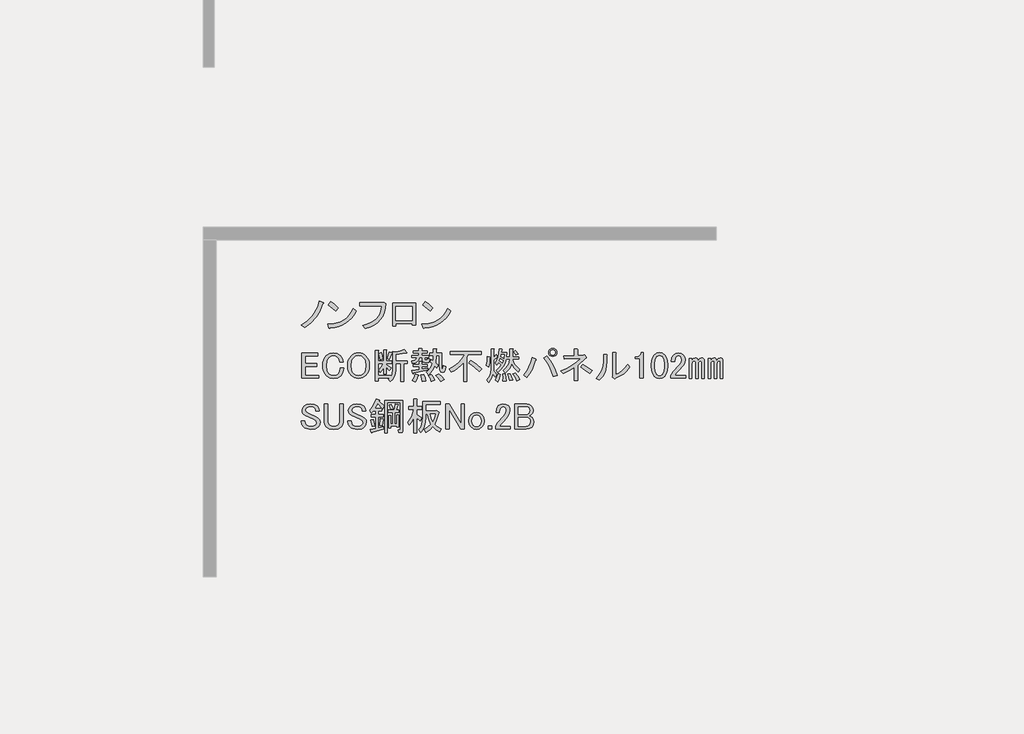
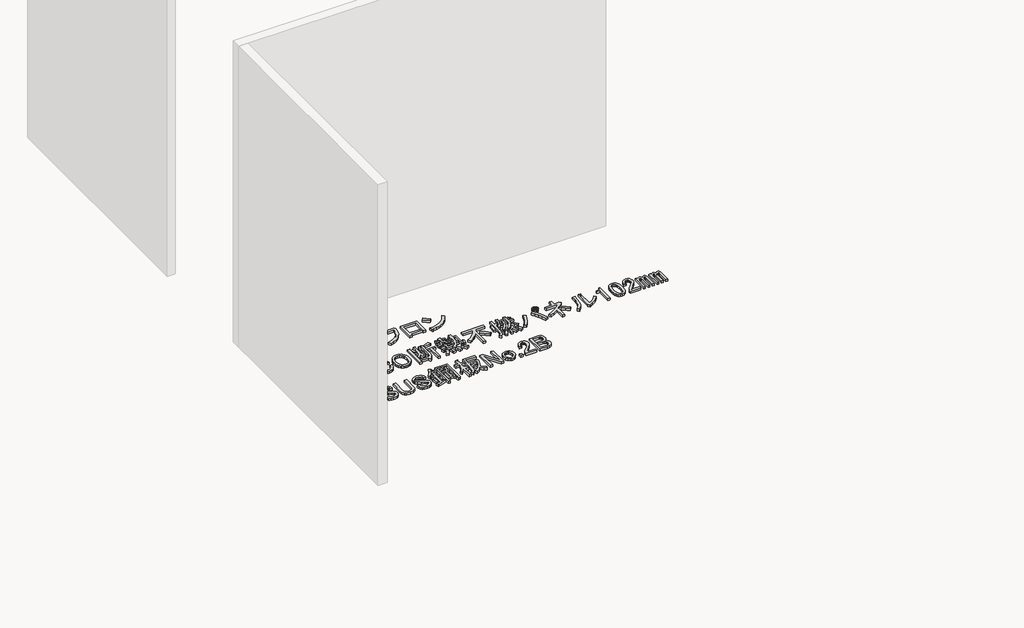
# One storey, part 58 of 117: 1 proxy.
"""IFC4 building model written with IfcOpenShell, lengths in millimetres."""

from ifc_helpers import new_model, si_unit, frame, origin, place, context, project, spatial, polyline, outline, extrude, element, save

model = new_model("IFC4")

# Units and contexts
model_context = context("Model", 3, world=origin())
ifc_project = project(units=[si_unit("LENGTHUNIT", "METRE", prefix="MILLI")], contexts=[model_context])

# Site, building, storey
site = spatial("IfcSite", under=ifc_project)
building = spatial("IfcBuilding", under=site)
storey = spatial("IfcBuildingStorey", under=building, Name="レベル 1", Elevation=500.0)

# Proxy
placement = place(None, origin())
element("IfcBuildingElementProxy", 1, Name="200㎜\u3000MS Pゴシック", ObjectType="200㎜\u3000MS Pゴシック", at=placement, inside=storey, context=model_context, shape_type="SweptSolid", body=[
    extrude(outline(polyline([(40940.1706985, -4603.5496882), (40914.5952502, -4663.3215225), (40886.146156, -4709.2998566), (40844.4782907, -4754.7034615), (40795.3389462, -4792.060858), (40767.7519457, -4770.2211493), (40815.4544673, -4739.7605029), (40855.1107805, -4701.2536481), (40872.4963381, -4677.3305462), (40887.8703435, -4649.2406577), (40901.2327969, -4616.9839827), (40912.5836981, -4580.5605212), (40943.6190736, -4594.3540214), (40946.7800841, -4598.9518548), (40940.1706985, -4603.5496882)])), frame((0.0, 0.0, 500.0), z_axis=(0.0, 0.0, 1.0), x_axis=(1.0, 0.0, 0.0)), (0.0, 0.0, 1.0), 25.0),
    extrude(outline(polyline([(41039.8977052, -4658.7236891), (40981.2753292, -4611.5958967), (41000.8161212, -4587.4572713), (41028.1157571, -4607.2854279), (41061.7374138, -4636.8839804), (41039.8977052, -4658.7236891)])), frame((0.0, 0.0, 500.0), z_axis=(0.0, 0.0, 1.0), x_axis=(1.0, 0.0, 0.0)), (0.0, 0.0, 1.0), 25.0),
    extrude(outline(polyline([(41201.9713328, -4658.7236891), (41185.447869, -4688.465924), (41166.3381239, -4714.4724192), (41144.6420975, -4736.7431748), (41120.3597898, -4755.2781907), (41093.4912008, -4770.077467), (41064.0363306, -4781.1410036), (41031.995179, -4788.4688006), (40997.3677461, -4792.060858), (40991.6204544, -4800.1070664), (40985.8731626, -4794.3597747), (40976.6774958, -4764.4738575), (41012.5082679, -4761.7977748), (41045.2857912, -4755.4937141), (41075.0100658, -4745.5616756), (41101.6810916, -4732.0016591), (41125.2988687, -4714.8136646), (41145.863397, -4693.9976923), (41163.3746766, -4669.553742), (41177.8327074, -4641.4818138), (41201.9713328, -4658.7236891)])), frame((0.0, 0.0, 500.0), z_axis=(0.0, 0.0, 1.0), x_axis=(1.0, 0.0, 0.0)), (0.0, 0.0, 1.0), 25.0),
    extrude(outline(polyline([(41252.7314136, -4773.6695243), (41286.514713, -4763.9889298), (41316.0234641, -4751.6142922), (41341.257667, -4736.5456116), (41362.2173217, -4718.782888), (41378.902428, -4698.3261214), (41391.3129862, -4675.1753118), (41399.4489961, -4649.3304591), (41403.3104577, -4620.7915635), (41230.8917049, -4620.7915635), (41230.8917049, -4595.5034798), (41405.6093744, -4595.5034798), (41421.7017914, -4592.0551047), (41434.3458332, -4603.5496882), (41430.825617, -4640.0449909), (41422.5638851, -4673.0919185), (41409.5606375, -4702.6904711), (41391.8158742, -4728.8406486), (41369.3295952, -4751.542451), (41342.1018005, -4770.7958784), (41310.1324901, -4786.6009308), (41273.421664, -4798.9576081), (41252.7314136, -4773.6695243)])), frame((0.0, 0.0, 500.0), z_axis=(0.0, 0.0, 1.0), x_axis=(1.0, 0.0, 0.0)), (0.0, 0.0, 1.0), 25.0),
    extrude(outline(polyline([(41667.455987, -4772.520066), (41641.0184449, -4772.520066), (41641.0184449, -4759.8760241), (41513.4285679, -4759.8760241), (41513.4285679, -4778.2673577), (41486.9910258, -4778.2673577), (41486.9910258, -4598.9518548), (41667.455987, -4598.9518548), (41667.455987, -4772.520066)]), holes=[polyline([(41513.4285679, -4624.2399386), (41513.4285679, -4734.5879404), (41641.0184449, -4734.5879404), (41641.0184449, -4624.2399386), (41513.4285679, -4624.2399386)])]), frame((0.0, 0.0, 500.0), z_axis=(0.0, 0.0, 1.0), x_axis=(1.0, 0.0, 0.0)), (0.0, 0.0, 1.0), 25.0),
    extrude(outline(polyline([(41943.5099049, -4658.7236891), (41926.9864411, -4688.465924), (41907.876696, -4714.4724192), (41886.1806696, -4736.7431748), (41861.8983619, -4755.2781907), (41835.0297729, -4770.077467), (41805.5749026, -4781.1410036), (41773.5337511, -4788.4688006), (41738.9063182, -4792.060858), (41733.1590264, -4800.1070664), (41727.4117347, -4794.3597747), (41718.2160679, -4764.4738575), (41754.0468399, -4761.7977748), (41786.8243633, -4755.4937141), (41816.5486378, -4745.5616756), (41843.2196637, -4732.0016591), (41866.8374407, -4714.8136646), (41887.4019691, -4693.9976923), (41904.9132486, -4669.553742), (41919.3712795, -4641.4818138), (41943.5099049, -4658.7236891)])), frame((0.0, 0.0, 500.0), z_axis=(0.0, 0.0, 1.0), x_axis=(1.0, 0.0, 0.0)), (0.0, 0.0, 1.0), 25.0),
    extrude(outline(polyline([(41781.4362772, -4658.7236891), (41722.8139013, -4611.5958967), (41742.3546933, -4587.4572713), (41769.6543291, -4607.2854279), (41803.2759859, -4636.8839804), (41781.4362772, -4658.7236891)])), frame((0.0, 0.0, 500.0), z_axis=(0.0, 0.0, 1.0), x_axis=(1.0, 0.0, 0.0)), (0.0, 0.0, 1.0), 25.0),
    extrude(outline(polyline([(40773.4992375, -4992.0551047), (40899.9396562, -4992.0551047), (40899.9396562, -5013.8948134), (40799.9367796, -5013.8948134), (40799.9367796, -5074.816106), (40893.0429061, -5074.816106), (40893.0429061, -5096.6558147), (40799.9367796, -5096.6558147), (40799.9367796, -5166.7727742), (40905.686948, -5166.7727742), (40905.686948, -5188.6124829), (40773.4992375, -5188.6124829), (40773.4992375, -4992.0551047)])), frame((0.0, 0.0, 500.0), z_axis=(0.0, 0.0, 1.0), x_axis=(1.0, 0.0, 0.0)), (0.0, 0.0, 1.0), 25.0),
    extrude(outline(polyline([(40937.7798252, -5090.908523), (40939.5758538, -5066.985421), (40944.9639399, -5045.7922827), (40953.9440832, -5027.3291079), (40966.516284, -5011.5958967), (40991.5170031, -4995.2161152), (41022.8397432, -4989.756188), (41053.5877541, -4994.641386), (41076.8642858, -5009.29698), (41092.6693381, -5032.8608762), (41098.7039944, -5062.1720642), (41071.116994, -5062.1720642), (41066.231796, -5040.9070847), (41056.1740354, -5025.3893969), (41040.9437123, -5015.0442717), (41022.8397432, -5011.5958967), (41003.2989512, -5015.6190009), (40986.0570759, -5027.6883136), (40977.0050914, -5039.3984206), (40970.5393882, -5053.8384911), (40965.3668256, -5090.908523), (40970.5393882, -5127.9785548), (40977.0050914, -5142.4186254), (40986.0570759, -5154.1287323), (41002.7242221, -5165.3359513), (41022.8397432, -5169.0716909), (41043.242629, -5165.9106804), (41058.4729521, -5156.427649), (41070.5422648, -5136.8868571), (41074.5653691, -5110.449315), (41102.1523695, -5110.449315), (41095.8303486, -5145.2204301), (41088.7899162, -5159.3731361), (41079.1632025, -5171.3706076), (41068.3151893, -5179.9197041), (41055.3119417, -5186.0262016), (41022.8397432, -5190.9113996), (40991.5170031, -5185.4514724), (40966.516284, -5169.0716909), (40953.9440832, -5153.4103209), (40944.9639399, -5135.1626695), (40939.5758538, -5114.3287369), (40937.7798252, -5090.908523)])), frame((0.0, 0.0, 500.0), z_axis=(0.0, 0.0, 1.0), x_axis=(1.0, 0.0, 0.0)), (0.0, 0.0, 1.0), 25.0),
    extrude(outline(polyline([(41133.1417667, -5089.7590646), (41134.8659542, -5066.9135799), (41140.0385168, -5046.6543764), (41148.6594544, -5028.9814543), (41160.7287671, -5013.8948134), (41173.4446501, -5003.3341648), (41187.4536738, -4995.7908443), (41202.7558381, -4991.2648521), (41219.3511431, -4989.756188), (41235.946448, -4991.2648521), (41251.2486123, -4995.7908443), (41265.257636, -5003.3341648), (41277.973519, -5013.8948134), (41290.0428317, -5028.9814543), (41298.6637694, -5046.6543764), (41303.836332, -5066.9135799), (41305.5605195, -5089.7590646), (41303.836332, -5112.6045494), (41298.6637694, -5132.8637528), (41290.0428317, -5150.536675), (41277.973519, -5165.6233159), (41265.257636, -5176.1839645), (41251.2486123, -5183.7272849), (41235.946448, -5188.2532772), (41219.3511431, -5189.7619413), (41202.7558381, -5188.2532772), (41187.4536738, -5183.7272849), (41173.4446501, -5176.1839645), (41160.7287671, -5165.6233159), (41148.6594544, -5150.536675), (41140.0385168, -5132.8637528), (41134.8659542, -5112.6045494), (41133.1417667, -5089.7590646)]), holes=[polyline([(41219.3511431, -5011.5958967), (41198.6608927, -5015.9063655), (41180.2695591, -5028.837772), (41171.7204626, -5039.9731498), (41165.6139651, -5053.8384911), (41160.7287671, -5089.7590646), (41165.6139651, -5125.6796381), (41171.7204626, -5139.5449795), (41180.2695591, -5150.6803573), (41198.6608927, -5163.6117637), (41219.3511431, -5167.9222326), (41240.0413934, -5163.6117637), (41258.432727, -5150.6803573), (41266.9818235, -5139.5449795), (41273.088321, -5125.6796381), (41277.973519, -5089.7590646), (41273.088321, -5053.8384911), (41266.9818235, -5039.9731498), (41258.432727, -5028.837772), (41240.0413934, -5015.9063655), (41219.3511431, -5011.5958967)])]), frame((0.0, 0.0, 500.0), z_axis=(0.0, 0.0, 1.0), x_axis=(1.0, 0.0, 0.0)), (0.0, 0.0, 1.0), 25.0),
    extrude(outline(polyline([(41444.3691101, -5035.7345221), (41461.6109854, -4982.8594379), (41482.3012357, -4988.6067296), (41484.0254232, -4991.7677401), (41480.002319, -4994.3540214), (41462.7604437, -5042.6312722), (41444.3691101, -5035.7345221)])), frame((0.0, 0.0, 500.0), z_axis=(0.0, 0.0, 1.0), x_axis=(1.0, 0.0, 0.0)), (0.0, 0.0, 1.0), 25.0),
    extrude(outline(polyline([(41598.3965292, -4987.4572713), (41596.6723417, -4992.0551047), (41589.2008624, -4989.756188), (41512.1871528, -5002.4002299), (41512.1871528, -5051.826939), (41604.143821, -5051.826939), (41604.143821, -5073.6666477), (41573.1084455, -5073.6666477), (41573.1084455, -5213.9005666), (41550.1192785, -5213.9005666), (41550.1192785, -5073.6666477), (41512.1871528, -5073.6666477), (41512.1871528, -5123.0933568), (41509.6008716, -5150.8958807), (41501.8420277, -5175.6810764), (41488.9106212, -5197.448944), (41470.8066522, -5216.1994833), (41453.5647769, -5196.6586914), (41463.9099021, -5187.4630245), (41374.2521506, -5187.4630245), (41374.2521506, -5209.3027332), (41351.2629836, -5209.3027332), (41351.2629836, -4970.215396), (41373.1026922, -4970.215396), (41377.9878902, -4972.5143127), (41374.2521506, -4977.1121461), (41374.2521506, -5052.9763974), (41416.7821096, -5052.9763974), (41416.7821096, -4965.6175626), (41435.1734433, -4965.6175626), (41440.0586413, -4967.9164793), (41436.3229016, -4972.5143127), (41436.3229016, -5052.9763974), (41480.002319, -5052.9763974), (41480.002319, -5071.367731), (41436.3229016, -5071.367731), (41436.3229016, -5080.5633978), (41476.5539439, -5107.0009399), (41462.7604437, -5128.8406486), (41436.3229016, -5102.4031065), (41436.3229016, -5155.2781907), (41416.7821096, -5155.2781907), (41416.7821096, -5107.0009399), (41403.5633386, -5126.8290965), (41389.1951092, -5142.6341488), (41376.5510673, -5124.2428152), (41398.390776, -5100.1041898), (41415.6326513, -5071.367731), (41374.2521506, -5071.367731), (41374.2521506, -5165.6233159), (41471.9561105, -5165.6233159), (41471.9561105, -5179.4168161), (41484.887517, -5155.2781907), (41489.1979858, -5121.9438985), (41489.1979858, -4977.1121461), (41511.0376945, -4982.8594379), (41547.2456326, -4975.3879586), (41577.7062789, -4962.1691875), (41598.3965292, -4987.4572713)])), frame((0.0, 0.0, 500.0), z_axis=(0.0, 0.0, 1.0), x_axis=(1.0, 0.0, 0.0)), (0.0, 0.0, 1.0), 25.0),
    extrude(outline(polyline([(41390.3445675, -5043.7807305), (41377.7005257, -4993.2045631), (41397.2413176, -4986.3078129), (41405.0001615, -5010.4464383), (41409.8853595, -5036.8839804), (41390.3445675, -5043.7807305)])), frame((0.0, 0.0, 500.0), z_axis=(0.0, 0.0, 1.0), x_axis=(1.0, 0.0, 0.0)), (0.0, 0.0, 1.0), 25.0),
    extrude(outline(polyline([(41734.0326148, -5159.8760241), (41744.0903754, -5187.17566), (41748.9755734, -5209.3027332), (41720.2391146, -5215.050025), (41717.6528333, -5193.4976809), (41709.8939894, -5163.3243992), (41734.0326148, -5159.8760241)])), frame((0.0, 0.0, 500.0), z_axis=(0.0, 0.0, 1.0), x_axis=(1.0, 0.0, 0.0)), (0.0, 0.0, 1.0), 25.0),
    extrude(outline(polyline([(41790.356074, -5212.7511083), (41782.022501, -5188.0377537), (41768.5163654, -5166.7727742), (41789.2066157, -5158.7265657), (41806.1611264, -5180.2789098), (41817.9430745, -5203.5554415), (41790.356074, -5212.7511083)])), frame((0.0, 0.0, 500.0), z_axis=(0.0, 0.0, 1.0), x_axis=(1.0, 0.0, 0.0)), (0.0, 0.0, 1.0), 25.0),
    extrude(outline(polyline([(41689.2037391, -5164.4738575), (41692.6521141, -5169.3590555), (41686.9048224, -5172.520066), (41677.1344264, -5198.0955143), (41666.214572, -5217.3489417), (41643.225405, -5205.8543582), (41655.8694469, -5182.290462), (41666.214572, -5155.2781907), (41689.2037391, -5164.4738575)])), frame((0.0, 0.0, 500.0), z_axis=(0.0, 0.0, 1.0), x_axis=(1.0, 0.0, 0.0)), (0.0, 0.0, 1.0), 25.0),
    extrude(outline(polyline([(41721.3885729, -5027.6883136), (41696.1004892, -5027.6883136), (41691.5026558, -5045.1457123), (41681.1575306, -5058.4363245), (41665.0651137, -5067.5601502), (41643.225405, -5072.5171893), (41638.6275716, -5052.9763974), (41663.9156553, -5044.3554597), (41671.3871346, -5037.0276627), (41675.4102388, -5027.6883136), (41639.7770299, -5027.6883136), (41639.7770299, -5009.29698), (41693.8015725, -5009.29698), (41693.8015725, -4992.0551047), (41650.1221551, -4992.0551047), (41650.1221551, -4973.6637711), (41693.8015725, -4973.6637711), (41693.8015725, -4955.2724374), (41715.6412812, -4955.2724374), (41720.5264792, -4957.5713541), (41716.7907395, -4962.1691875), (41716.7907395, -4973.6637711), (41759.3206985, -4973.6637711), (41759.3206985, -4992.0551047), (41716.7907395, -4992.0551047), (41716.7907395, -5009.29698), (41769.6658237, -5009.29698), (41769.6658237, -5027.6883136), (41740.9293649, -5027.6883136), (41740.9293649, -5040.3323555), (41742.3661878, -5045.5049181), (41746.6766567, -5047.2291056), (41757.0217818, -5047.2291056), (41760.7575215, -5044.0680951), (41760.4701569, -5034.5850637), (41780.0109489, -5036.8839804), (41777.137303, -5058.4363245), (41771.8210581, -5063.8244106), (41763.9185319, -5065.6204392), (41739.7799066, -5065.6204392), (41725.9864063, -5060.7352412), (41721.3885729, -5046.0796472), (41721.3885729, -5027.6883136)])), frame((0.0, 0.0, 500.0), z_axis=(0.0, 0.0, 1.0), x_axis=(1.0, 0.0, 0.0)), (0.0, 0.0, 1.0), 25.0),
    extrude(outline(polyline([(41852.4268251, -5010.4464383), (41830.5871164, -5010.4464383), (41825.989283, -5067.9193559), (41845.5300749, -5086.3106896), (41835.1849498, -5108.1503983), (41819.0925328, -5092.0579813), (41799.8391054, -5129.7027424), (41769.6658237, -5162.1749408), (41752.4239484, -5141.4846905), (41767.5105893, -5129.5590601), (41780.585678, -5114.4724192), (41791.6492147, -5096.2247679), (41800.7011992, -5074.816106), (41783.4593239, -5059.8731475), (41791.5055324, -5042.6312722), (41805.2990326, -5052.9763974), (41807.5979493, -5010.4464383), (41780.0109489, -5010.4464383), (41780.0109489, -4992.0551047), (41807.5979493, -4992.0551047), (41807.5979493, -4957.5713541), (41829.437658, -4957.5713541), (41834.322856, -4959.8702708), (41830.5871164, -4964.4681043), (41830.5871164, -4992.0551047), (41871.967617, -4992.0551047), (41871.967617, -5088.6096063), (41875.4159921, -5112.7482317), (41878.6488437, -5114.7597838), (41881.4506484, -5111.5987733), (41885.7611173, -5089.7590646), (41905.3019092, -5096.6558147), (41900.775917, -5123.4525626), (41892.945232, -5139.4731384), (41881.8098542, -5144.7175421), (41867.3697836, -5139.1857738), (41860.8322393, -5131.8579768), (41856.1625647, -5120.219711), (41852.4268251, -5084.0117729), (41852.4268251, -5010.4464383)])), frame((0.0, 0.0, 500.0), z_axis=(0.0, 0.0, 1.0), x_axis=(1.0, 0.0, 0.0)), (0.0, 0.0, 1.0), 25.0),
    extrude(outline(polyline([(41651.2716134, -5149.5308989), (41649.2600613, -5154.4160969), (41645.5243217, -5152.979274), (41639.7770299, -5128.8406486), (41694.9510308, -5120.7944401), (41694.9510308, -5097.8052731), (41651.2716134, -5097.8052731), (41651.2716134, -5079.4139395), (41694.9510308, -5079.4139395), (41694.9510308, -5056.4247724), (41713.3423645, -5056.4247724), (41718.2275625, -5058.7236891), (41714.4918228, -5063.3215225), (41714.4918228, -5079.4139395), (41759.3206985, -5079.4139395), (41759.3206985, -5097.8052731), (41714.4918228, -5097.8052731), (41714.4918228, -5117.3460651), (41765.0679903, -5108.1503983), (41765.0679903, -5124.2428152), (41651.2716134, -5149.5308989)])), frame((0.0, 0.0, 500.0), z_axis=(0.0, 0.0, 1.0), x_axis=(1.0, 0.0, 0.0)), (0.0, 0.0, 1.0), 25.0),
    extrude(outline(polyline([(41848.97845, -5154.1287323), (41873.6918046, -5175.3937119), (41892.6578674, -5200.1070664), (41866.2203253, -5215.050025), (41846.9668979, -5185.4514724), (41828.2881997, -5165.6233159), (41848.97845, -5154.1287323)])), frame((0.0, 0.0, 500.0), z_axis=(0.0, 0.0, 1.0), x_axis=(1.0, 0.0, 0.0)), (0.0, 0.0, 1.0), 25.0),
    extrude(outline(polyline([(42167.3784135, -5138.0363154), (42128.2968295, -5099.8168252), (42086.9163289, -5070.2182726), (42103.0087458, -5049.5280223), (42146.6881632, -5077.6897519), (42188.0686638, -5116.1966067), (42167.3784135, -5138.0363154)])), frame((0.0, 0.0, 500.0), z_axis=(0.0, 0.0, 1.0), x_axis=(1.0, 0.0, 0.0)), (0.0, 0.0, 1.0), 25.0),
    extrude(outline(polyline([(41940.9351182, -4977.1121461), (42182.3213721, -4977.1121461), (42182.3213721, -5002.4002299), (42082.3184955, -5002.4002299), (42071.9733703, -5026.5388553), (42071.9733703, -5212.7511083), (42045.5358282, -5212.7511083), (42045.5358282, -5065.6204392), (42024.7018956, -5088.8969709), (42001.2816816, -5109.2998566), (41975.2751864, -5126.8290965), (41946.6824099, -5141.4846905), (41930.589993, -5115.0471484), (41970.174465, -5094.6442626), (42003.8679629, -5069.0688143), (42031.6704868, -5038.3208034), (42053.5820367, -5002.4002299), (41940.9351182, -5002.4002299), (41940.9351182, -4977.1121461)])), frame((0.0, 0.0, 500.0), z_axis=(0.0, 0.0, 1.0), x_axis=(1.0, 0.0, 0.0)), (0.0, 0.0, 1.0), 25.0),
    extrude(outline(polyline([(42354.7401249, -5211.6016499), (42355.3148541, -5184.5893787), (42352.4412082, -5156.427649), (42371.9820002, -5155.2781907), (42378.3040211, -5181.4283682), (42378.8787503, -5209.3027332), (42354.7401249, -5211.6016499)])), frame((0.0, 0.0, 500.0), z_axis=(0.0, 0.0, 1.0), x_axis=(1.0, 0.0, 0.0)), (0.0, 0.0, 1.0), 25.0),
    extrude(outline(polyline([(42335.1993329, -5159.8760241), (42326.5783953, -5190.3366704), (42312.2101659, -5217.3489417), (42292.6693739, -5204.7048998), (42306.7502387, -5179.9915453), (42316.8079993, -5151.8298156), (42335.1993329, -5159.8760241)])), frame((0.0, 0.0, 500.0), z_axis=(0.0, 0.0, 1.0), x_axis=(1.0, 0.0, 0.0)), (0.0, 0.0, 1.0), 25.0),
    extrude(outline(polyline([(42250.1394149, -5021.9410219), (42254.7372483, -5024.2399386), (42250.1394149, -5028.837772), (42248.9899565, -5068.4940851), (42243.2426647, -5102.4031065), (42224.8513311, -5089.7590646), (42230.5986229, -5055.2753141), (42231.7480812, -5018.4926468), (42250.1394149, -5021.9410219)])), frame((0.0, 0.0, 500.0), z_axis=(0.0, 0.0, 1.0), x_axis=(1.0, 0.0, 0.0)), (0.0, 0.0, 1.0), 25.0),
    extrude(outline(polyline([(42301.8650407, -5003.5496882), (42311.0607075, -5020.7915635), (42312.4975305, -5026.8262199), (42307.6123325, -5026.5388553), (42281.1747904, -5047.2291056), (42281.1747904, -5131.1395653), (42294.9682906, -5143.4962426), (42306.4628741, -5159.8760241), (42293.8188322, -5180.5662744), (42275.4274986, -5155.2781907), (42263.6455505, -5191.1987642), (42242.0932064, -5220.7973168), (42227.1502478, -5202.4059831), (42242.2368887, -5183.6554438), (42253.0130607, -5163.0370346), (42259.478764, -5140.5507556), (42261.6339984, -5116.1966067), (42261.6339984, -4958.7208125), (42280.025332, -4958.7208125), (42284.91053, -4961.0197292), (42281.1747904, -4965.6175626), (42281.1747904, -5024.2399386), (42301.8650407, -5003.5496882)])), frame((0.0, 0.0, 500.0), z_axis=(0.0, 0.0, 1.0), x_axis=(1.0, 0.0, 0.0)), (0.0, 0.0, 1.0), 25.0),
    extrude(outline(polyline([(42452.4440848, -4972.5143127), (42474.2837935, -4996.6529381), (42457.0419182, -5008.1475216), (42450.4325327, -4996.6529381), (42437.5011262, -4982.8594379), (42452.4440848, -4972.5143127)])), frame((0.0, 0.0, 500.0), z_axis=(0.0, 0.0, 1.0), x_axis=(1.0, 0.0, 0.0)), (0.0, 0.0, 1.0), 25.0),
    extrude(outline(polyline([(42462.78921, -5209.3027332), (42449.5704389, -5181.1410036), (42432.9032928, -5156.427649), (42451.2946265, -5148.3814406), (42470.2606893, -5171.3706076), (42485.778377, -5198.9576081), (42462.78921, -5209.3027332)])), frame((0.0, 0.0, 500.0), z_axis=(0.0, 0.0, 1.0), x_axis=(1.0, 0.0, 0.0)), (0.0, 0.0, 1.0), 25.0),
    extrude(outline(polyline([(42413.3625008, -5154.1287323), (42431.7538345, -5203.5554415), (42407.6152091, -5208.1532749), (42393.8217089, -5157.5771074), (42413.3625008, -5154.1287323)])), frame((0.0, 0.0, 500.0), z_axis=(0.0, 0.0, 1.0), x_axis=(1.0, 0.0, 0.0)), (0.0, 0.0, 1.0), 25.0),
    extrude(outline(polyline([(42474.2837935, -5139.1857738), (42443.5357826, -5108.7251274), (42422.5581677, -5074.816106), (42414.1527535, -5096.9431793), (42402.7300111, -5116.1966067), (42388.2899405, -5132.5763882), (42370.8325418, -5146.0825239), (42357.0390416, -5127.6911902), (42377.8729742, -5108.7969686), (42393.2469797, -5087.7475125), (42403.161058, -5064.542822), (42407.6152091, -5039.1828971), (42378.8787503, -5039.1828971), (42370.904383, -5069.7872258), (42357.3264062, -5097.2305439), (42338.1448199, -5121.5128516), (42313.3596242, -5142.6341488), (42300.7155823, -5126.5417319), (42326.5783953, -5104.9893878), (42342.096083, -5084.0117729), (42320.2563743, -5064.4709809), (42306.4628741, -5085.1612312), (42292.6693739, -5070.2182726), (42305.0978923, -5051.1803687), (42314.7964472, -5026.2514907), (42321.7650384, -4995.4316386), (42326.0036661, -4958.7208125), (42346.6939164, -4961.0197292), (42350.1422915, -4963.6060105), (42344.3949997, -4966.767021), (42342.096083, -4985.1583546), (42385.7755004, -4985.1583546), (42382.3271253, -5020.7915635), (42407.6152091, -5020.7915635), (42407.6152091, -4958.7208125), (42429.4549178, -4958.7208125), (42434.3401158, -4961.0197292), (42430.6043761, -4965.6175626), (42430.6043761, -5020.7915635), (42480.0310853, -5020.7915635), (42480.0310853, -5039.1828971), (42430.6043761, -5039.1828971), (42437.1419205, -5060.9507647), (42448.7083452, -5081.4254916), (42465.3036501, -5100.6070778), (42486.9278354, -5118.4955234), (42474.2837935, -5139.1857738)]), holes=[polyline([(42350.1422915, -5069.0688143), (42357.0390416, -5049.5280223), (42331.7509579, -5033.4356054), (42326.0036661, -5050.6774807), (42350.1422915, -5069.0688143)]), polyline([(42339.7971663, -5003.5496882), (42336.3487913, -5019.6421052), (42361.636875, -5033.4356054), (42366.2347084, -5003.5496882), (42339.7971663, -5003.5496882)])]), frame((0.0, 0.0, 500.0), z_axis=(0.0, 0.0, 1.0), x_axis=(1.0, 0.0, 0.0)), (0.0, 0.0, 1.0), 25.0),
    extrude(outline(polyline([(42699.5776305, -5012.745355), (42726.230696, -5049.4561812), (42748.7169751, -5087.1727833), (42767.0364675, -5125.8951616), (42781.1891735, -5165.6233159), (42750.153798, -5175.968441), (42734.7079514, -5132.8637528), (42717.1068704, -5094.356898), (42697.3505549, -5060.4478766), (42675.4390051, -5031.1366887), (42699.5776305, -5012.745355)])), frame((0.0, 0.0, 500.0), z_axis=(0.0, 0.0, 1.0), x_axis=(1.0, 0.0, 0.0)), (0.0, 0.0, 1.0), 25.0),
    extrude(outline(polyline([(42612.2187958, -5039.1828971), (42616.2419, -5044.6428243), (42609.919879, -5049.5280223), (42597.9942486, -5084.9457078), (42582.9076078, -5118.782888), (42564.6599564, -5151.039563), (42543.2512946, -5181.7157328), (42516.8137525, -5164.4738575), (42540.018443, -5133.0074351), (42559.056347, -5099.5294606), (42573.9274644, -5064.039934), (42584.6317953, -5026.5388553), (42612.2187958, -5039.1828971)])), frame((0.0, 0.0, 500.0), z_axis=(0.0, 0.0, 1.0), x_axis=(1.0, 0.0, 0.0)), (0.0, 0.0, 1.0), 25.0),
    extrude(outline(polyline([(42745.5559646, -5018.4926468), (42732.9119227, -5016.1937301), (42722.5667975, -5009.29698), (42715.6700474, -4998.9518548), (42713.3711307, -4986.3078129), (42715.6700474, -4973.6637711), (42722.5667975, -4963.3186459), (42732.9119227, -4956.4218958), (42745.5559646, -4954.1229791), (42758.2000065, -4956.4218958), (42768.5451316, -4963.3186459), (42775.4418817, -4973.6637711), (42777.7407984, -4986.3078129), (42775.4418817, -4998.9518548), (42768.5451316, -5009.29698), (42758.2000065, -5016.1937301), (42745.5559646, -5018.4926468)]), holes=[polyline([(42745.5559646, -5006.9980633), (42753.8895376, -5005.5612403), (42760.4989232, -5001.2507715), (42764.809392, -4994.641386), (42766.2462149, -4986.3078129), (42764.809392, -4977.9742399), (42760.4989232, -4971.3648544), (42753.8895376, -4967.0543855), (42745.5559646, -4965.6175626), (42737.2223915, -4967.0543855), (42730.613006, -4971.3648544), (42726.3025372, -4977.9742399), (42724.8657143, -4986.3078129), (42726.3025372, -4994.641386), (42730.613006, -5001.2507715), (42737.2223915, -5005.5612403), (42745.5559646, -5006.9980633)])]), frame((0.0, 0.0, 500.0), z_axis=(0.0, 0.0, 1.0), x_axis=(1.0, 0.0, 0.0)), (0.0, 0.0, 1.0), 25.0),
    extrude(outline(polyline([(42989.2411352, -5008.1475216), (42996.1378853, -5005.8486049), (43008.7819272, -5023.0904802), (43009.9313856, -5029.1251366), (43004.1840938, -5031.1366887), (42940.9638844, -5087.4601479), (42940.9638844, -5208.1532749), (42914.5263423, -5208.1532749), (42914.5263423, -5105.8514816), (42874.2953, -5129.9901069), (42829.4664243, -5151.8298156), (42809.9256323, -5131.1395653), (42855.4729195, -5111.6706145), (42896.7097379, -5088.8969709), (42933.6360874, -5062.8186345), (42966.2519682, -5033.4356054), (42836.3631744, -5039.1828971), (42832.9147993, -5013.8948134), (42914.5263423, -5011.5958967), (42914.5263423, -4959.8702708), (42937.5155094, -4959.8702708), (42943.5501657, -4963.3186459), (42940.9638844, -4969.0659377), (42940.9638844, -5010.4464383), (42989.2411352, -5008.1475216)])), frame((0.0, 0.0, 500.0), z_axis=(0.0, 0.0, 1.0), x_axis=(1.0, 0.0, 0.0)), (0.0, 0.0, 1.0), 25.0),
    extrude(outline(polyline([(43035.2194693, -5151.8298156), (42998.1494375, -5122.5186277), (42965.1025098, -5101.2536481), (42982.3443851, -5079.4139395), (43021.1386045, -5102.6904711), (43054.7602613, -5128.8406486), (43035.2194693, -5151.8298156)])), frame((0.0, 0.0, 500.0), z_axis=(0.0, 0.0, 1.0), x_axis=(1.0, 0.0, 0.0)), (0.0, 0.0, 1.0), 25.0),
    extrude(outline(polyline([(43242.2139293, -5158.7265657), (43266.9991251, -5146.5135708), (43290.7785447, -5129.4153778), (43313.5521883, -5107.4319868), (43335.3200559, -5080.5633978), (43351.4124728, -5102.4031065), (43328.1359412, -5130.2056304), (43301.9857636, -5153.8413678), (43272.9619403, -5173.3103186), (43241.064471, -5188.6124829), (43231.8688042, -5193.2103163), (43213.4774705, -5179.4168161), (43215.7763872, -5173.6695243), (43215.7763872, -4988.6067296), (43239.9150126, -4988.6067296), (43245.6623044, -4992.0551047), (43242.2139293, -4997.8023965), (43242.2139293, -5158.7265657)])), frame((0.0, 0.0, 500.0), z_axis=(0.0, 0.0, 1.0), x_axis=(1.0, 0.0, 0.0)), (0.0, 0.0, 1.0), 25.0),
    extrude(outline(polyline([(43088.1865102, -5189.7619413), (43113.3309116, -5160.5225944), (43131.2911984, -5127.9785548), (43142.0673704, -5092.1298225), (43145.6594278, -5052.9763974), (43145.6594278, -5001.2507715), (43169.7980532, -5001.2507715), (43175.5453449, -5004.6991466), (43172.0969699, -5010.4464383), (43172.0969699, -5051.826939), (43168.2893891, -5097.5897496), (43156.8666467, -5138.32368), (43137.8287427, -5174.0287301), (43111.1756772, -5204.7048998), (43088.1865102, -5189.7619413)])), frame((0.0, 0.0, 500.0), z_axis=(0.0, 0.0, 1.0), x_axis=(1.0, 0.0, 0.0)), (0.0, 0.0, 1.0), 25.0),
    extrude(outline(polyline([(43430.7250991, -5011.5958967), (43438.7713075, -5000.6760423), (43442.2196826, -4988.6067296), (43456.0131828, -4988.6067296), (43456.0131828, -5187.4630245), (43429.5756407, -5187.4630245), (43429.5756407, -5034.5850637), (43395.0918902, -5034.5850637), (43395.0918902, -5020.7915635), (43405.4370153, -5020.7915635), (43419.8052447, -5018.4926468), (43430.7250991, -5011.5958967)])), frame((0.0, 0.0, 500.0), z_axis=(0.0, 0.0, 1.0), x_axis=(1.0, 0.0, 0.0)), (0.0, 0.0, 1.0), 25.0),
    extrude(outline(polyline([(43521.5323089, -5078.2644811), (43522.9691318, -5054.7005849), (43527.2796006, -5034.5850637), (43534.4637153, -5017.9179176), (43544.5214759, -5004.6991466), (43562.625445, -4992.6298339), (43584.7525182, -4988.6067296), (43606.8795915, -4992.6298339), (43624.9835606, -5004.6991466), (43635.0413212, -5017.9179176), (43642.2254359, -5034.5850637), (43646.5359047, -5054.7005849), (43647.9727276, -5078.2644811), (43647.9727276, -5101.2536481), (43646.5359047, -5124.3146563), (43642.2254359, -5144.0709718), (43635.0413212, -5160.5225944), (43624.9835606, -5173.6695243), (43606.8795915, -5185.738837), (43584.7525182, -5189.7619413), (43562.625445, -5185.738837), (43544.5214759, -5173.6695243), (43534.4637153, -5160.5225944), (43527.2796006, -5144.0709718), (43522.9691318, -5124.3146563), (43521.5323089, -5101.2536481), (43521.5323089, -5078.2644811)]), holes=[polyline([(43584.7525182, -5010.4464383), (43573.8326639, -5012.745355), (43564.0622679, -5019.6421052), (43557.5247235, -5028.7659308), (43552.855049, -5041.1944493), (43549.1193093, -5075.9655644), (43549.1193093, -5102.4031065), (43553.1424136, -5136.5994925), (43558.1712939, -5149.1716932), (43565.2117263, -5158.7265657), (43574.6947577, -5165.6233159), (43584.7525182, -5167.9222326), (43595.6723726, -5165.6233159), (43605.4427686, -5158.7265657), (43611.980313, -5149.6027401), (43616.6499875, -5137.1742216), (43620.3857272, -5102.4031065), (43620.3857272, -5075.9655644), (43616.6499875, -5041.1944493), (43611.980313, -5028.7659308), (43605.4427686, -5019.6421052), (43595.6723726, -5012.745355), (43584.7525182, -5010.4464383)])]), frame((0.0, 0.0, 500.0), z_axis=(0.0, 0.0, 1.0), x_axis=(1.0, 0.0, 0.0)), (0.0, 0.0, 1.0), 25.0),
    extrude(outline(polyline([(43677.8586448, -5058.7236891), (43682.4564782, -5027.400949), (43696.2499784, -5004.6991466), (43712.6297599, -4993.4919276), (43731.8831873, -4989.756188), (43754.5849898, -4993.4919276), (43772.1142296, -5004.6991466), (43783.3214486, -5021.3662927), (43787.0571882, -5041.4818138), (43782.7467194, -5067.3446268), (43769.8153129, -5089.7590646), (43736.4810207, -5127.6911902), (43718.0896871, -5148.3814406), (43704.2961869, -5166.7727742), (43790.5055633, -5166.7727742), (43790.5055633, -5188.6124829), (43673.2608114, -5188.6124829), (43673.2608114, -5169.0716909), (43679.2954677, -5155.2781907), (43692.8016033, -5136.8868571), (43739.9293958, -5085.1612312), (43754.5849898, -5063.8962517), (43759.4701878, -5041.4818138), (43757.1712711, -5028.837772), (43750.2745209, -5018.4926468), (43742.5156771, -5013.3200842), (43733.0326457, -5011.5958967), (43724.411708, -5013.3200842), (43716.9402287, -5018.4926468), (43707.4571973, -5034.8724283), (43704.2961869, -5058.7236891), (43677.8586448, -5058.7236891)])), frame((0.0, 0.0, 500.0), z_axis=(0.0, 0.0, 1.0), x_axis=(1.0, 0.0, 0.0)), (0.0, 0.0, 1.0), 25.0),
    extrude(outline(polyline([(43839.9322724, -5189.7619413), (43820.3914804, -5189.7619413), (43820.3914804, -5032.286147), (43839.9322724, -5032.286147), (43839.9322724, -5049.5280223), (43852.0015851, -5034.0103346), (43865.2203561, -5028.837772), (43874.416023, -5030.2745949), (43881.3127731, -5034.5850637), (43888.2095232, -5048.378564), (43901.1409296, -5033.72297), (43914.6470653, -5028.837772), (43922.9806383, -5030.2745949), (43929.5900239, -5034.5850637), (43934.7625864, -5043.2060014), (43936.486774, -5055.2753141), (43936.486774, -5189.7619413), (43916.945982, -5189.7619413), (43916.945982, -5065.6204392), (43914.3597007, -5056.1374078), (43906.6008568, -5052.9763974), (43896.2557317, -5057.5742308), (43890.2210753, -5066.1951684), (43888.2095232, -5075.9655644), (43888.2095232, -5189.7619413), (43868.6687312, -5189.7619413), (43868.6687312, -5065.6204392), (43866.0824499, -5056.1374078), (43858.323606, -5052.9763974), (43847.9784809, -5057.5742308), (43841.9438245, -5066.1951684), (43839.9322724, -5075.9655644), (43839.9322724, -5189.7619413)])), frame((0.0, 0.0, 500.0), z_axis=(0.0, 0.0, 1.0), x_axis=(1.0, 0.0, 0.0)), (0.0, 0.0, 1.0), 25.0),
    extrude(outline(polyline([(44061.7777343, -5028.837772), (44070.1113074, -5030.2745949), (44076.7206929, -5034.5850637), (44081.8932555, -5043.2060014), (44083.617443, -5055.2753141), (44083.617443, -5189.7619413), (44064.0766511, -5189.7619413), (44064.0766511, -5065.6204392), (44061.4903698, -5056.1374078), (44053.7315259, -5052.9763974), (44043.3864007, -5057.5742308), (44037.3517444, -5066.1951684), (44035.3401922, -5075.9655644), (44035.3401922, -5189.7619413), (44015.7994003, -5189.7619413), (44015.7994003, -5065.6204392), (44013.213119, -5056.1374078), (44005.4542751, -5052.9763974), (43995.1091499, -5057.5742308), (43989.0744936, -5066.1951684), (43987.0629415, -5075.9655644), (43987.0629415, -5189.7619413), (43967.5221495, -5189.7619413), (43967.5221495, -5032.286147), (43987.0629415, -5032.286147), (43987.0629415, -5049.5280223), (43999.1322542, -5034.0103346), (44012.3510252, -5028.837772), (44021.546692, -5030.2745949), (44028.4434421, -5034.5850637), (44035.3401922, -5048.378564), (44048.2715987, -5033.72297), (44061.7777343, -5028.837772)])), frame((0.0, 0.0, 500.0), z_axis=(0.0, 0.0, 1.0), x_axis=(1.0, 0.0, 0.0)), (0.0, 0.0, 1.0), 25.0),
    extrude(outline(polyline([(40775.7981542, -5443.7807305), (40779.8212584, -5423.3778448), (40791.8905711, -5405.8486049), (40812.2934569, -5393.7792922), (40841.3172803, -5389.756188), (40872.6400204, -5394.3540214), (40895.3418228, -5408.1475216), (40907.4111355, -5425.6767615), (40911.4342397, -5446.0796472), (40884.9966976, -5446.0796472), (40882.6977809, -5433.4356054), (40875.8010308, -5423.0904802), (40862.5822598, -5415.3316363), (40843.616197, -5412.745355), (40823.2133112, -5415.0442717), (40810.2819048, -5421.9410219), (40804.2472484, -5430.5619595), (40802.2356963, -5440.3323555), (40806.8335297, -5455.2753141), (40827.52378, -5466.7698976), (40887.2956143, -5493.2074397), (40904.5374896, -5504.7020232), (40914.020521, -5518.4955234), (40917.1815315, -5534.5879404), (40913.1584273, -5555.8529199), (40901.0891146, -5573.6695243), (40891.1031951, -5581.2128448), (40878.3873121, -5586.6009308), (40844.7656553, -5590.9113996), (40811.1439985, -5585.738837), (40797.5660217, -5579.2731338), (40786.1432794, -5570.2211493), (40774.9360604, -5551.8298156), (40771.2003208, -5526.5417319), (40797.6378629, -5526.5417319), (40799.9367796, -5544.3583363), (40806.8335297, -5556.427649), (40822.9259466, -5565.9106804), (40845.9151137, -5569.0716909), (40866.8927286, -5566.198045), (40881.5483226, -5557.5771074), (40888.4450727, -5548.3814406), (40890.7439894, -5539.1857738), (40889.0198019, -5529.7027424), (40883.8472393, -5521.9438985), (40865.4559057, -5510.449315), (40835.5699885, -5496.6558147), (40802.2356963, -5481.7128562), (40786.1432794, -5471.367731), (40778.3844355, -5459.2984183), (40775.7981542, -5443.7807305)])), frame((0.0, 0.0, 500.0), z_axis=(0.0, 0.0, 1.0), x_axis=(1.0, 0.0, 0.0)), (0.0, 0.0, 1.0), 25.0),
    extrude(outline(polyline([(40951.2054987, -5392.0551047), (40977.6430408, -5392.0551047), (40977.6430408, -5529.9901069), (40980.2293221, -5544.6457009), (40987.988166, -5556.427649), (41003.5058537, -5565.9106804), (41024.7708332, -5569.0716909), (41046.0358128, -5565.9106804), (41061.5535005, -5556.427649), (41069.3123444, -5544.6457009), (41071.8986257, -5529.9901069), (41071.8986257, -5392.0551047), (41098.3361678, -5392.0551047), (41098.3361678, -5531.1395653), (41094.3130635, -5554.1287323), (41082.2437508, -5572.520066), (41071.7549434, -5580.5662744), (41058.6798546, -5586.3135662), (41024.7708332, -5590.9113996), (40990.8618119, -5586.3135662), (40977.7867231, -5580.5662744), (40967.2979156, -5572.520066), (40955.2286029, -5554.1287323), (40951.2054987, -5531.1395653), (40951.2054987, -5392.0551047)])), frame((0.0, 0.0, 500.0), z_axis=(0.0, 0.0, 1.0), x_axis=(1.0, 0.0, 0.0)), (0.0, 0.0, 1.0), 25.0),
    extrude(outline(polyline([(41140.6822135, -5443.7807305), (41144.7053177, -5423.3778448), (41156.7746304, -5405.8486049), (41177.1775161, -5393.7792922), (41206.2013395, -5389.756188), (41237.5240796, -5394.3540214), (41260.2258821, -5408.1475216), (41272.2951948, -5425.6767615), (41276.318299, -5446.0796472), (41249.8807569, -5446.0796472), (41247.5818402, -5433.4356054), (41240.6850901, -5423.0904802), (41227.466319, -5415.3316363), (41208.5002562, -5412.745355), (41188.0973705, -5415.0442717), (41175.165964, -5421.9410219), (41169.1313077, -5430.5619595), (41167.1197556, -5440.3323555), (41171.717589, -5455.2753141), (41192.4078393, -5466.7698976), (41252.1796736, -5493.2074397), (41269.4215489, -5504.7020232), (41278.9045803, -5518.4955234), (41282.0655908, -5534.5879404), (41278.0424865, -5555.8529199), (41265.9731738, -5573.6695243), (41255.9872544, -5581.2128448), (41243.2713714, -5586.6009308), (41209.6497146, -5590.9113996), (41176.0280578, -5585.738837), (41162.450081, -5579.2731338), (41151.0273386, -5570.2211493), (41139.8201197, -5551.8298156), (41136.0843801, -5526.5417319), (41162.5219222, -5526.5417319), (41164.8208389, -5544.3583363), (41171.717589, -5556.427649), (41187.8100059, -5565.9106804), (41210.7991729, -5569.0716909), (41231.7767879, -5566.198045), (41246.4323819, -5557.5771074), (41253.329132, -5548.3814406), (41255.6280487, -5539.1857738), (41253.9038611, -5529.7027424), (41248.7312986, -5521.9438985), (41230.3399649, -5510.449315), (41200.4540478, -5496.6558147), (41167.1197556, -5481.7128562), (41151.0273386, -5471.367731), (41143.2684948, -5459.2984183), (41140.6822135, -5443.7807305)])), frame((0.0, 0.0, 500.0), z_axis=(0.0, 0.0, 1.0), x_axis=(1.0, 0.0, 0.0)), (0.0, 0.0, 1.0), 25.0),
    extrude(outline(polyline([(41410.3451429, -5431.1366887), (41368.9646422, -5387.4572713), (41347.1249335, -5426.5388553), (41402.2989344, -5426.5388553), (41402.2989344, -5444.9301889), (41375.8613923, -5444.9301889), (41375.8613923, -5473.6666477), (41413.7935179, -5473.6666477), (41413.7935179, -5492.0579813), (41375.8613923, -5492.0579813), (41375.8613923, -5579.4168161), (41414.9429763, -5569.0716909), (41417.241893, -5588.6124829), (41325.2852248, -5613.9005666), (41322.9863081, -5619.6478584), (41318.3884747, -5616.1994833), (41311.4917246, -5593.2103163), (41356.3206003, -5584.0146495), (41356.3206003, -5492.0579813), (41318.3884747, -5492.0579813), (41318.3884747, -5473.6666477), (41356.3206003, -5473.6666477), (41356.3206003, -5444.9301889), (41334.4808916, -5444.9301889), (41319.537933, -5463.3215225), (41306.8938912, -5442.6312722), (41335.0556208, -5404.9865112), (41359.7689754, -5354.1229791), (41381.6086841, -5359.8702708), (41385.0570591, -5363.6060105), (41379.3097674, -5365.6175626), (41378.160309, -5369.0659377), (41422.9891847, -5406.9980633), (41410.3451429, -5431.1366887)])), frame((0.0, 0.0, 500.0), z_axis=(0.0, 0.0, 1.0), x_axis=(1.0, 0.0, 0.0)), (0.0, 0.0, 1.0), 25.0),
    extrude(outline(polyline([(41478.1631856, -5394.3540214), (41485.3473003, -5409.5843446), (41490.8072275, -5429.9872303), (41473.5653522, -5435.7345221), (41462.0707687, -5398.9518548), (41478.1631856, -5394.3540214)])), frame((0.0, 0.0, 500.0), z_axis=(0.0, 0.0, 1.0), x_axis=(1.0, 0.0, 0.0)), (0.0, 0.0, 1.0), 25.0),
    extrude(outline(polyline([(41531.0382698, -5395.5034798), (41533.6245511, -5398.9518548), (41527.5898948, -5402.4002299), (41514.9458529, -5440.3323555), (41535.6361032, -5440.3323555), (41535.6361032, -5458.7236891), (41504.6007277, -5458.7236891), (41504.6007277, -5547.2319822), (41519.5436863, -5547.2319822), (41519.5436863, -5479.4139395), (41535.6361032, -5479.4139395), (41535.6361032, -5573.6695243), (41519.5436863, -5573.6695243), (41519.5436863, -5565.6233159), (41473.5653522, -5565.6233159), (41473.5653522, -5578.2673577), (41457.4729353, -5578.2673577), (41457.4729353, -5481.7128562), (41473.5653522, -5481.7128562), (41473.5653522, -5547.2319822), (41488.5083108, -5547.2319822), (41488.5083108, -5458.7236891), (41452.8751019, -5458.7236891), (41452.8751019, -5440.3323555), (41498.853436, -5440.3323555), (41509.1985611, -5390.9056463), (41531.0382698, -5395.5034798)])), frame((0.0, 0.0, 500.0), z_axis=(0.0, 0.0, 1.0), x_axis=(1.0, 0.0, 0.0)), (0.0, 0.0, 1.0), 25.0),
    extrude(outline(polyline([(41425.2881014, -5362.1691875), (41565.5220204, -5362.1691875), (41565.5220204, -5602.4059831), (41561.7862807, -5613.6132021), (41550.5790618, -5617.3489417), (41534.4866449, -5617.3489417), (41529.8888115, -5595.509233), (41541.383395, -5595.509233), (41544.83177, -5594.3597747), (41545.9812284, -5590.9113996), (41545.9812284, -5380.5605212), (41444.8288934, -5380.5605212), (41444.8288934, -5619.6478584), (41425.2881014, -5619.6478584), (41425.2881014, -5362.1691875)])), frame((0.0, 0.0, 500.0), z_axis=(0.0, 0.0, 1.0), x_axis=(1.0, 0.0, 0.0)), (0.0, 0.0, 1.0), 25.0),
    extrude(outline(polyline([(41413.7935179, -5510.449315), (41416.3797992, -5513.6103254), (41412.6440596, -5516.1966067), (41404.5978511, -5563.3243992), (41386.2065175, -5561.0254825), (41391.9538092, -5507.0009399), (41413.7935179, -5510.449315)])), frame((0.0, 0.0, 500.0), z_axis=(0.0, 0.0, 1.0), x_axis=(1.0, 0.0, 0.0)), (0.0, 0.0, 1.0), 25.0),
    extrude(outline(polyline([(41336.7798083, -5511.5987733), (41348.2743918, -5563.3243992), (41327.5841415, -5569.0716909), (41316.089558, -5517.3460651), (41336.7798083, -5511.5987733)])), frame((0.0, 0.0, 500.0), z_axis=(0.0, 0.0, 1.0), x_axis=(1.0, 0.0, 0.0)), (0.0, 0.0, 1.0), 25.0),
    extrude(outline(polyline([(41736.7913148, -5590.9113996), (41765.5277736, -5573.6695243), (41787.3674823, -5551.8298156), (41769.5508779, -5509.8745858), (41759.7804819, -5469.0688143), (41747.13644, -5469.0688143), (41747.13644, -5493.2074397), (41744.693841, -5534.9471461), (41737.366044, -5569.3590555), (41725.153049, -5596.4431679), (41708.054856, -5616.1994833), (41694.2613558, -5593.2103163), (41707.3364446, -5575.8247587), (41716.6757937, -5553.5540032), (41722.2794031, -5526.3980496), (41724.147273, -5494.356898), (41724.147273, -5373.6637711), (41860.9328169, -5373.6637711), (41860.9328169, -5395.5034798), (41747.13644, -5395.5034798), (41747.13644, -5447.2291056), (41826.4490663, -5447.2291056), (41832.1963581, -5441.4818138), (41851.73715, -5455.2753141), (41853.173973, -5459.0110537), (41848.288775, -5463.3215225), (41835.9320977, -5509.8745858), (41817.2533995, -5550.6803573), (41836.2194623, -5569.0716909), (41867.829567, -5587.4630245), (41858.6339002, -5611.6016499), (41830.7595351, -5595.509233), (41802.3104409, -5570.2211493), (41777.8844509, -5594.6471392), (41745.9869817, -5615.050025), (41736.7913148, -5590.9113996)]), holes=[polyline([(41781.6201906, -5469.0688143), (41789.666399, -5502.1157419), (41802.3104409, -5529.9901069), (41814.9544828, -5503.8399294), (41823.0006912, -5469.0688143), (41781.6201906, -5469.0688143)])]), frame((0.0, 0.0, 500.0), z_axis=(0.0, 0.0, 1.0), x_axis=(1.0, 0.0, 0.0)), (0.0, 0.0, 1.0), 25.0),
    extrude(outline(polyline([(41654.0303135, -5619.6478584), (41654.0303135, -5500.1041898), (41636.213709, -5534.3005758), (41617.2476462, -5556.427649), (41605.7530627, -5535.7373987), (41622.994938, -5513.0355963), (41636.7884382, -5488.6096063), (41647.1335634, -5462.4594288), (41654.0303135, -5434.5850637), (41612.6498128, -5434.5850637), (41612.6498128, -5412.745355), (41654.0303135, -5412.745355), (41654.0303135, -5352.9735207), (41675.8700222, -5352.9735207), (41680.7552202, -5355.2724374), (41677.0194805, -5359.8702708), (41677.0194805, -5412.745355), (41714.9516061, -5412.745355), (41714.9516061, -5434.5850637), (41677.0194805, -5434.5850637), (41677.0194805, -5474.816106), (41714.9516061, -5501.2536481), (41704.606481, -5524.2428152), (41677.0194805, -5501.2536481), (41677.0194805, -5619.6478584), (41654.0303135, -5619.6478584)])), frame((0.0, 0.0, 500.0), z_axis=(0.0, 0.0, 1.0), x_axis=(1.0, 0.0, 0.0)), (0.0, 0.0, 1.0), 25.0),
    extrude(outline(polyline([(41904.6122342, -5392.0551047), (41933.348693, -5392.0551047), (42025.3053612, -5547.2319822), (42025.3053612, -5392.0551047), (42051.7429033, -5392.0551047), (42051.7429033, -5588.6124829), (42023.0064445, -5588.6124829), (41931.0497763, -5433.4356054), (41931.0497763, -5588.6124829), (41904.6122342, -5588.6124829), (41904.6122342, -5392.0551047)])), frame((0.0, 0.0, 500.0), z_axis=(0.0, 0.0, 1.0), x_axis=(1.0, 0.0, 0.0)), (0.0, 0.0, 1.0), 25.0),
    extrude(outline(polyline([(42084.8932822, -5524.2428152), (42089.7784802, -5496.9431793), (42104.4340742, -5474.816106), (42123.6875015, -5461.8846996), (42146.9640332, -5457.5742308), (42170.2405648, -5461.8846996), (42189.4939922, -5474.816106), (42204.1495862, -5496.9431793), (42209.0347842, -5524.2428152), (42204.1495862, -5551.542451), (42189.4939922, -5573.6695243), (42170.2405648, -5586.6009308), (42146.9640332, -5590.9113996), (42123.6875015, -5586.6009308), (42104.4340742, -5573.6695243), (42089.7784802, -5551.542451), (42084.8932822, -5524.2428152)]), holes=[polyline([(42146.9640332, -5478.2644811), (42134.3199913, -5480.5633978), (42123.9748661, -5487.4601479), (42113.629741, -5503.5525648), (42110.1813659, -5524.2428152), (42113.3423764, -5544.6457009), (42122.8254078, -5559.8760241), (42134.0326267, -5567.634868), (42146.9640332, -5570.2211493), (42159.8954396, -5567.634868), (42171.1026586, -5559.8760241), (42180.58569, -5544.6457009), (42183.7467004, -5524.2428152), (42180.2983254, -5503.5525648), (42169.9532002, -5487.4601479), (42159.6080751, -5480.5633978), (42146.9640332, -5478.2644811)])]), frame((0.0, 0.0, 500.0), z_axis=(0.0, 0.0, 1.0), x_axis=(1.0, 0.0, 0.0)), (0.0, 0.0, 1.0), 25.0),
    extrude(outline(polyline([(42239.564398, -5563.3243992), (42266.0019401, -5563.3243992), (42266.0019401, -5588.6124829), (42239.564398, -5588.6124829), (42239.564398, -5563.3243992)])), frame((0.0, 0.0, 500.0), z_axis=(0.0, 0.0, 1.0), x_axis=(1.0, 0.0, 0.0)), (0.0, 0.0, 1.0), 25.0),
    extrude(outline(polyline([(42300.7155823, -5458.7236891), (42305.3134158, -5427.400949), (42319.106916, -5404.6991466), (42335.4866975, -5393.4919276), (42354.7401249, -5389.756188), (42377.4419273, -5393.4919276), (42394.9711672, -5404.6991466), (42406.1783861, -5421.3662927), (42409.9141258, -5441.4818138), (42405.603657, -5467.3446268), (42392.6722505, -5489.7590646), (42359.3379583, -5527.6911902), (42340.9466247, -5548.3814406), (42327.1531244, -5566.7727742), (42413.3625008, -5566.7727742), (42413.3625008, -5588.6124829), (42296.1177489, -5588.6124829), (42296.1177489, -5569.0716909), (42302.1524053, -5555.2781907), (42315.6585409, -5536.8868571), (42362.7863334, -5485.1612312), (42377.4419273, -5463.8962517), (42382.3271253, -5441.4818138), (42380.0282086, -5428.837772), (42373.1314585, -5418.4926468), (42365.3726147, -5413.3200842), (42355.8895832, -5411.5958967), (42347.2686456, -5413.3200842), (42339.7971663, -5418.4926468), (42330.3141349, -5434.8724283), (42327.1531244, -5458.7236891), (42300.7155823, -5458.7236891)])), frame((0.0, 0.0, 500.0), z_axis=(0.0, 0.0, 1.0), x_axis=(1.0, 0.0, 0.0)), (0.0, 0.0, 1.0), 25.0),
    extrude(outline(polyline([(42447.8462514, -5392.0551047), (42539.8029196, -5392.0551047), (42560.7805345, -5395.7908443), (42577.7350452, -5406.9980633), (42588.0801704, -5423.0904802), (42591.5285454, -5443.7807305), (42588.3675349, -5460.7352412), (42578.8845035, -5474.816106), (42561.6426283, -5485.1612312), (42583.482337, -5497.8052731), (42593.8274621, -5513.3229608), (42597.2758372, -5532.2890237), (42592.9653684, -5555.5655553), (42580.0339619, -5574.8189827), (42562.7920866, -5585.1641078), (42538.6534612, -5588.6124829), (42447.8462514, -5588.6124829), (42447.8462514, -5392.0551047)]), holes=[polyline([(42474.2837935, -5413.8948134), (42474.2837935, -5474.816106), (42536.3545445, -5474.816106), (42546.9870343, -5472.8045539), (42555.8953365, -5466.7698976), (42562.7920866, -5456.1374078), (42565.0910033, -5442.6312722), (42562.7920866, -5430.8493241), (42555.8953365, -5420.7915635), (42548.1364926, -5415.6190009), (42538.6534612, -5413.8948134), (42474.2837935, -5413.8948134)]), polyline([(42474.2837935, -5496.6558147), (42474.2837935, -5566.7727742), (42532.9061695, -5566.7727742), (42548.1364926, -5564.4738575), (42559.3437116, -5557.5771074), (42567.1025554, -5546.0825239), (42569.6888367, -5532.2890237), (42567.38992, -5517.9207942), (42560.4931699, -5507.0009399), (42548.4238572, -5499.242096), (42532.9061695, -5496.6558147), (42474.2837935, -5496.6558147)])]), frame((0.0, 0.0, 500.0), z_axis=(0.0, 0.0, 1.0), x_axis=(1.0, 0.0, 0.0)), (0.0, 0.0, 1.0), 25.0),
])

save(model, "model.ifc")
